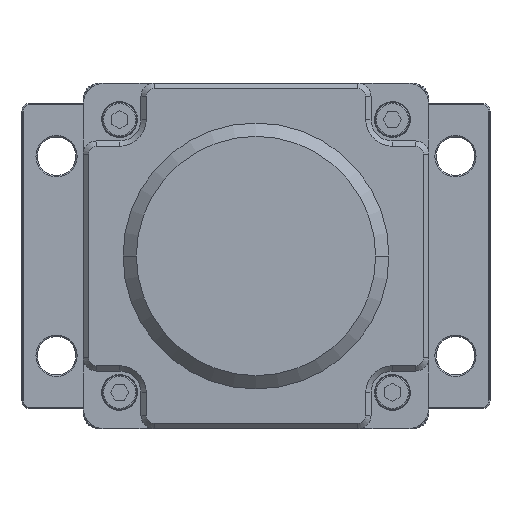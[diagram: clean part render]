
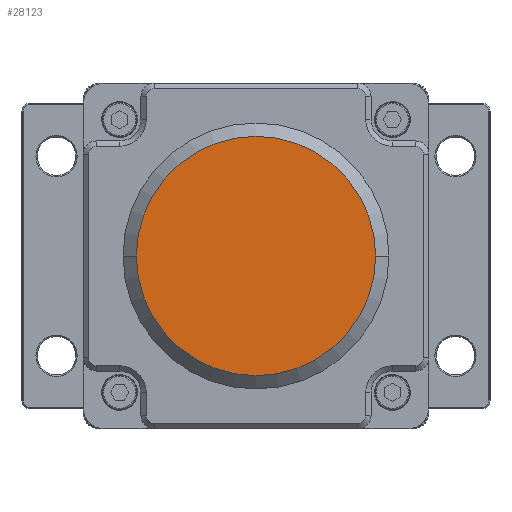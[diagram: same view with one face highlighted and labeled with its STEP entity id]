
A CAD part, front view. The second image highlights one B-rep face of the part: STEP entity #28123.
In plain terms, the highlighted planar face has unit normal (0, -1, 0) as drawn and (0, 1, 0) by its records, which use the part's own axes.
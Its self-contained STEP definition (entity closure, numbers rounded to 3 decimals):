
#26201=CARTESIAN_POINT('',(0.,166.,0.));
#26202=DIRECTION('',(0.,1.,0.));
#26203=DIRECTION('',(-1.,0.,0.));
#26204=AXIS2_PLACEMENT_3D('',#26201,#26202,#26203);
#26206=CARTESIAN_POINT('',(0.,166.,0.));
#26207=DIRECTION('',(0.,1.,0.));
#26208=DIRECTION('',(1.,0.,0.));
#26209=AXIS2_PLACEMENT_3D('',#26206,#26207,#26208);
#27068=CARTESIAN_POINT('',(-45.,166.,0.));
#27069=CARTESIAN_POINT('',(45.,166.,0.));
#27070=VERTEX_POINT('',#27068);
#27071=VERTEX_POINT('',#27069);
#28113=CARTESIAN_POINT('',(0.,166.,0.));
#28114=DIRECTION('',(0.,1.,0.));
#28115=DIRECTION('',(1.,0.,0.));
#28116=AXIS2_PLACEMENT_3D('',#28113,#28114,#28115);
#28117=PLANE('',#28116);
#28119=ORIENTED_EDGE('',*,*,#28118,.F.);
#28120=ORIENTED_EDGE('',*,*,#28103,.F.);
#28121=EDGE_LOOP('',(#28119,#28120));
#28122=FACE_OUTER_BOUND('',#28121,.F.);
#28123=ADVANCED_FACE('',(#28122),#28117,.T.);
#26205=CIRCLE('',#26204,45.);
#26210=CIRCLE('',#26209,45.);
#28103=EDGE_CURVE('',#27071,#27070,#26210,.T.);
#28118=EDGE_CURVE('',#27070,#27071,#26205,.T.);
